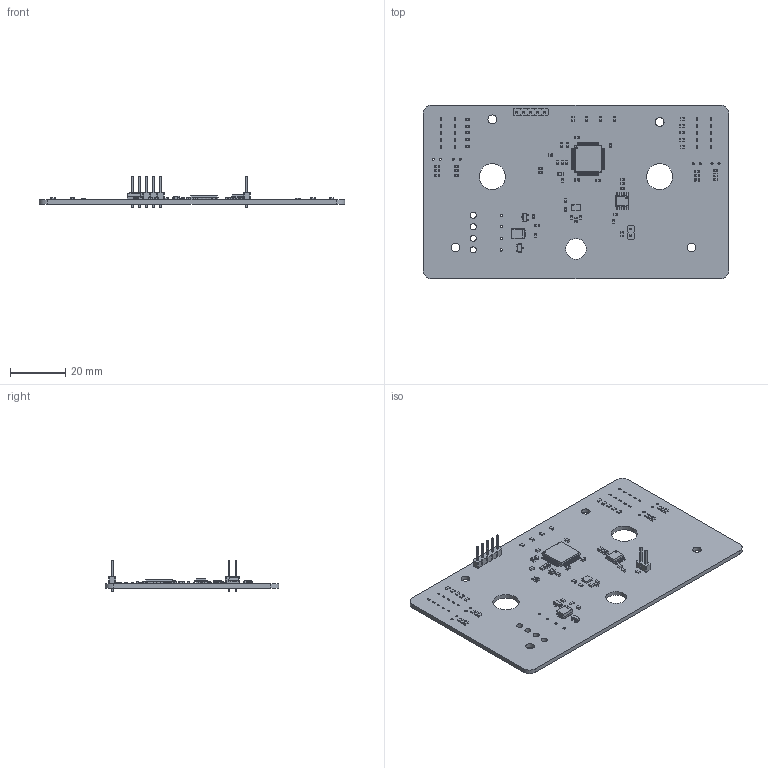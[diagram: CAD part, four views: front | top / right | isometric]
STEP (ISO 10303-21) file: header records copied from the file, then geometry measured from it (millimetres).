
FILE_DESCRIPTION(('KiCad electronic assembly'),'2;1');
FILE_NAME('KieraV2.step','2022-01-12T17:37:55',('An Author'),( 'A Company'),'Open CASCADE STEP processor 7.5', 'KiCad to STEP converter','Unknown');
FILE_SCHEMA(('AUTOMOTIVE_DESIGN { 1 0 10303 214 1 1 1 1 }'));
Length unit declared in the file: millimetre
Products named in the file (24): Open CASCADE STEP translator 7.5 1; C_0603_1608Metric; SOLID; LQFP-64_10x10mm_P0.5mm; R_0603_1608Metric; PinHeader_1x05_P2.54mm_Vertical; L_0805_2012Metric; L_0603_1608Metric; SOIC-8_3.9x4.9mm_P1.27mm; LGA-14_3x2.5mm_P0.5mm_LayoutBorder3x4y; SOT-23; PinHeader_1x02_P2.54mm_Vertical; D_SMB; COMPOUND
Assembly tree (74 placements, depth 3):
  Open CASCADE STEP translator 7.5 1
    C_0603_1608Metric  x22
      SOLID
    LQFP-64_10x10mm_P0.5mm
      SOLID
    R_0603_1608Metric  x27
      SOLID
    PinHeader_1x05_P2.54mm_Vertical
      SOLID
    L_0805_2012Metric
      SOLID
    L_0603_1608Metric  x4
      SOLID
    SOIC-8_3.9x4.9mm_P1.27mm
      SOLID
    LGA-14_3x2.5mm_P0.5mm_LayoutBorder3x4y
      SOLID
    SOT-23  x2
      SOLID
    PinHeader_1x02_P2.54mm_Vertical
      SOLID
    D_SMB
      SOLID
    COMPOUND
Bounding box: 111 x 63.2 x 11.54 mm (x, y, z)
Volume: 11202.8 mm3; surface area: 15661.7 mm2
Topology: 63 solids, 63 shells, 3185 faces, 8319 edges, 5346 vertices
Faces by surface type: plane 2060, cylinder 933, bspline 192
Full cylindrical faces by diameter (mm): 0.2 x1, 0.5 x1, 0.6 x1, 0.762 x8, 0.85 x4, 1 x7, 2.2 x4, 3.2 x4, 7.5 x1, 9.5 x2
Entity records: 137325 total; most frequent: CARTESIAN_POINT 32303, DIRECTION 17237, LINE 11695, VECTOR 11695, ORIENTED_EDGE 9286, PCURVE 9286, DEFINITIONAL_REPRESENTATION 9286, EDGE_CURVE 4643
